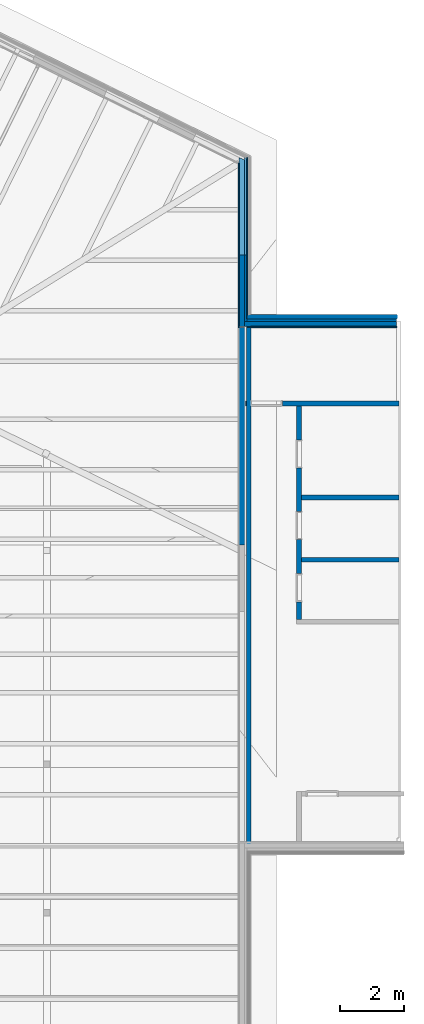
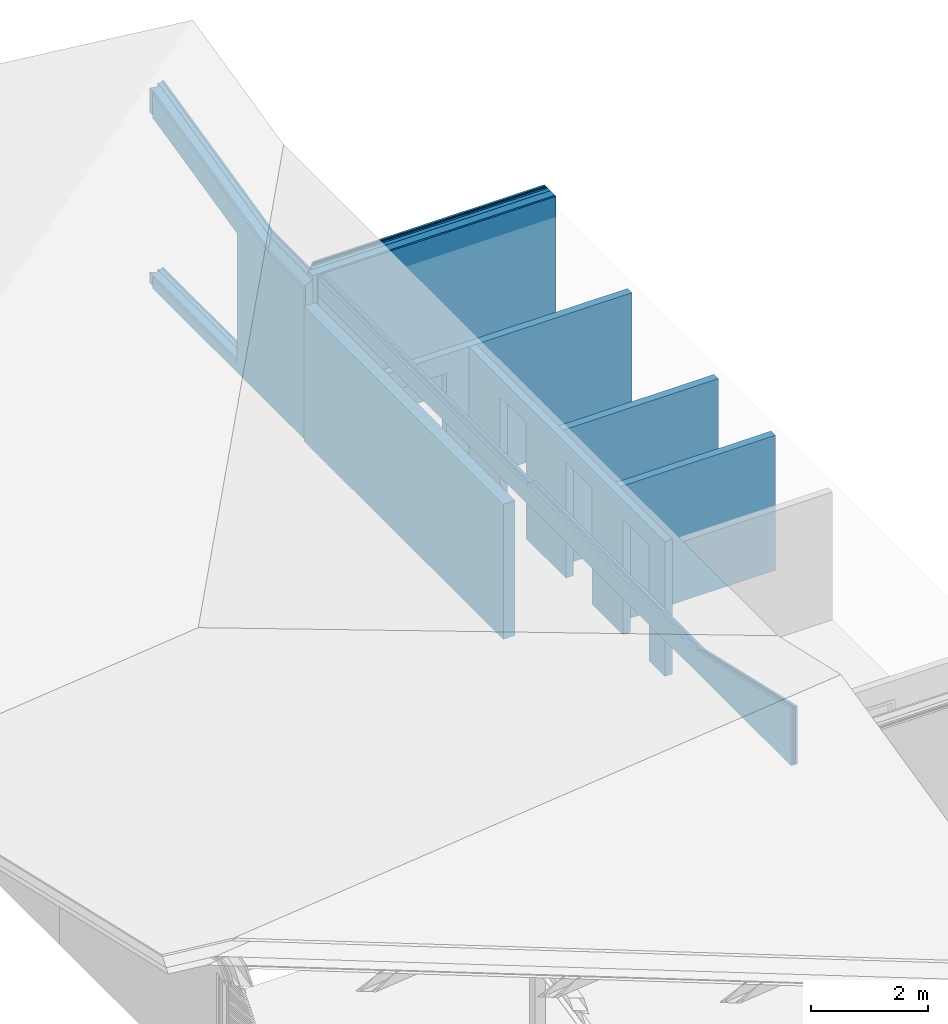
# One storey, part 6 of 14: 20 walls, 12 openings.
"""IFC4 building model written with IfcOpenShell, lengths in metres."""

from ifc_helpers import new_model, entity, si_unit, converted_unit, derived_unit, frame, frame_2d, origin, origin_with_axes, place, context, subcontext, project, spatial, polyline, rectangle, outline, extrude, clip, bounded_halfspace, faceted_brep, material, element, save


model = new_model("IFC4")

# Units and contexts
model_context = context("Model", 3, precision=1e-05, world=origin())
body_context = subcontext(model_context, "Body", "Model", "MODEL_VIEW")
ifc_project = project(units=[si_unit("LENGTHUNIT", "METRE"), si_unit("AREAUNIT", "SQUARE_METRE"), si_unit("VOLUMEUNIT", "CUBIC_METRE"), si_unit("MASSUNIT", "GRAM", prefix="KILO"), converted_unit("PLANEANGLEUNIT", "DEGREE", entity("IfcPlaneAngleMeasure", 0.0174532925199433), si_unit("PLANEANGLEUNIT", "RADIAN"), dimensions=[0, 0, 0, 0, 0, 0, 0]), derived_unit("THERMALTRANSMITTANCEUNIT", [(si_unit("POWERUNIT", "WATT"), 1), (si_unit("THERMODYNAMICTEMPERATUREUNIT", "KELVIN"), -1), (si_unit("LENGTHUNIT", "METRE"), -2)]), derived_unit("VOLUMETRICFLOWRATEUNIT", [(si_unit("LENGTHUNIT", "METRE"), 3), (converted_unit("TIMEUNIT", "hour", entity("IfcTimeMeasure", 3600.0), si_unit("TIMEUNIT", "SECOND"), dimensions=[0, 0, 1, 0, 0, 0, 0]), -1), (si_unit("LENGTHUNIT", "METRE"), -1)])], contexts=[model_context])

# Site, building, storey
site_placement = place(None, origin())
site = spatial("IfcSite", under=ifc_project, at=site_placement, Name="Psychiatrie Neubau Wunstorf", CompositionType="ELEMENT")
building_placement = place(site_placement, origin())
building = spatial("IfcBuilding", under=site, at=building_placement, Name="Neubau H1 Sozialzentrum", CompositionType="ELEMENT")
storey_placement = place(building_placement, frame((0.0, 0.0, 4.45)))
storey = spatial("IfcBuildingStorey", under=building, at=storey_placement, Name="H1 Ebene +1", CompositionType="ELEMENT", Elevation=4.45)

# Walls
ifc_material_1 = material(Name="WA-LB")
wall_1_placement = place(storey_placement, frame((-4.89052529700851, 28.0942445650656, -0.15)))
element("IfcWall", 1, at=wall_1_placement, inside=storey, material=ifc_material_1, context=body_context, shape_type="SweptSolid", body=[
    extrude(rectangle(XDim=4.68952529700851, YDim=0.0359999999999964, at=frame_2d((2.34476264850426, 0.0179999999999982), x_axis=(1.0, 0.0))), origin_with_axes(), (0.0, 0.0, 1.0), 3.36),
])
ifc_material_2 = material(Name="WA-HD")
wall_2_placement = place(storey_placement, frame((-4.97052529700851, 28.1302445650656, -0.15)))
element("IfcWall", 2, at=wall_2_placement, inside=storey, material=ifc_material_2, context=body_context, shape_type="SweptSolid", body=[
    extrude(rectangle(XDim=4.76952529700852, YDim=0.16, at=frame_2d((2.38476264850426, 0.08), x_axis=(1.0, 0.0))), origin_with_axes(), (0.0, 0.0, 1.0), 3.36),
])
ifc_material_3 = material(Name="WA-DL")
wall_3_placement = place(storey_placement, frame((-4.89052529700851, 28.2902445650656, -0.15)))
element("IfcWall", 3, at=wall_3_placement, inside=storey, material=ifc_material_3, context=body_context, shape_type="SweptSolid", body=[
    extrude(rectangle(XDim=4.68952529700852, YDim=0.08, at=frame_2d((2.34476264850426, 0.04), x_axis=(1.0, 0.0))), origin_with_axes(), (0.0, 0.0, 1.0), 3.36),
])
ifc_material_4 = material(Name="WA-LB")
wall_4_placement = place(storey_placement, frame((-4.85452529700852, 28.3702445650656, -0.15)))
element("IfcWall", 4, at=wall_4_placement, inside=storey, material=ifc_material_4, context=body_context, shape_type="SweptSolid", body=[
    extrude(rectangle(XDim=4.65352529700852, YDim=0.0359999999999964, at=frame_2d((2.32676264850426, 0.0179999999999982), x_axis=(1.0, 0.0))), origin_with_axes(), (0.0, 0.0, 1.0), 3.36),
])
ifc_material_5 = material(Name="WA-KL")
wall_5_placement = place(storey_placement, frame((-4.83052529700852, 28.4062445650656, -0.15)))
element("IfcWall", 5, at=wall_5_placement, inside=storey, material=ifc_material_5, context=body_context, shape_type="SweptSolid", body=[
    extrude(rectangle(XDim=4.62952529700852, YDim=0.024, at=frame_2d((2.31476264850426, 0.012), x_axis=(1.0, 0.0))), origin_with_axes(), (0.0, 0.0, 1.0), 3.36),
])
ifc_material_6 = material(Name="WA-TL")
wall_6_placement = place(storey_placement, frame((-4.80652529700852, 28.4302445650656, -0.15)))
element("IfcWall", 6, at=wall_6_placement, inside=storey, material=ifc_material_6, context=body_context, shape_type="SweptSolid", body=[
    extrude(rectangle(XDim=4.60552529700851, YDim=0.0240000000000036, at=frame_2d((2.30276264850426, 0.0120000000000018), x_axis=(1.0, 0.0))), origin_with_axes(), (0.0, 0.0, 1.0), 3.36),
])
ifc_material_7 = material(Name="WA-HS")
wall_7_placement = place(storey_placement, frame((-4.76452529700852, 28.4542445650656, -0.15)))
element("IfcWall", 7, at=wall_7_placement, inside=storey, material=ifc_material_7, context=body_context, shape_type="SweptSolid", body=[
    extrude(rectangle(XDim=4.56352529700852, YDim=0.0419999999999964, at=frame_2d((2.28176264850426, 0.0209999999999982), x_axis=(1.0, 0.0))), origin_with_axes(), (0.0, 0.0, 1.0), 3.36),
])

# Wall, openings
ifc_material_8 = material(Name="WA-LB")
wall_8_placement = place(storey_placement, frame((-5.16652529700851, 33.2585880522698, -0.1), z_axis=(0.0, 0.0, 1.0), x_axis=(0.0, -1.0, 0.0)))
wall_8 = element("IfcWall", 8, at=wall_8_placement, inside=storey, material=ifc_material_8, context=body_context, shape_type="Clipping", body=[
    clip(clip(clip(extrude(outline(polyline([(-5.16434348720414, 0.0), (0.0, 0.0), (0.0, 0.0359999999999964), (-5.14659354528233, 0.0359999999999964), (-5.16434348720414, 0.0)])), frame((5.16434348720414, 0.0, 0.0), z_axis=(0.0, 0.0, 1.0), x_axis=(1.0, 0.0, 0.0)), (0.0, 0.0, 1.0), 4.06168993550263), bounded_halfspace(frame((1.97325676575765, 0.0179999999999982, 3.60998102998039), z_axis=(-0.222900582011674, 0.105340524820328, -0.969132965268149), x_axis=(0.516530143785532, -0.830356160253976, -0.209058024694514)), True, origin_with_axes(), polyline([(0.0178116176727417, 0.0359999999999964), (0.040205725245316, 0.0), (3.9406717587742, 0.0), (3.89433796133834, 0.0359999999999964), (0.0178116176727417, 0.0359999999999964)]))), bounded_halfspace(frame((4.54092417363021, 0.0179999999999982, 3.14543483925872), z_axis=(-8.79012107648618e-15, 0.375157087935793, -0.926961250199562), x_axis=(-1.0, 0.0, 9.30974777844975e-15)), True, origin_with_axes(), polyline([(5.16434348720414, 0.0359999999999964), (3.89433796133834, 0.0359999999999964), (3.9406717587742, 0.0), (5.16434348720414, 0.0), (5.16434348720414, 0.0359999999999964)]))), bounded_halfspace(frame((0.0189418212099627, 0.0179999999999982, 4.05711518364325), z_axis=(0.00413072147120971, 0.246524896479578, -0.969127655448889), x_axis=(0.999991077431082, 0.0, 0.00422434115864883)), True, origin_with_axes(), polyline([(0.0, 0.0), (0.040205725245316, 0.0), (0.0178116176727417, 0.0359999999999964), (0.0177499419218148, 0.0359999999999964), (0.0, 0.0)]))),
])
opening_1_placement = place(wall_8_placement, frame((0.0, 0.0, 0.23)))
element("IfcOpeningElement", 9, at=opening_1_placement, cuts=wall_8, Name="Fensteröffnung", ObjectType="Opening", context=body_context, shape_type="Brep", body=[
    faceted_brep([(0.0, 0.0, 3.31424249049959), (0.0, 0.0, 0.0), (0.0177499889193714, 0.0359999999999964, 0.0), (0.0177499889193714, 0.0359999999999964, 3.32347423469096), (0.017811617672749, 0.0359999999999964, 3.32347449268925), (0.0402057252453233, 0.0, 3.31441080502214), (2.89013819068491, 0.0, 0.0), (2.89013819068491, 0.0, 2.65892633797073), (2.89013819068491, 0.0359999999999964, 0.0), (2.89013819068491, 0.0359999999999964, 2.66283938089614)], [[[0, 1, 2, 3]], [[0, 3, 4, 5]], [[6, 1, 0, 5, 7]], [[8, 9, 4, 3, 2]], [[8, 6, 7, 9]], [[9, 7, 5, 4]], [[6, 8, 2, 1]]], orient=[[False], [False], [False], [False], [False], [False], [False]]),
])
opening_2_placement = place(wall_8_placement, frame((0.0, 0.0, 0.23)))
element("IfcOpeningElement", 10, at=opening_2_placement, cuts=wall_8, Name="Fensteröffnung", ObjectType="Opening", context=body_context, shape_type="Brep", body=[
    faceted_brep([(0.0, 0.0, 3.31424249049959), (0.0, 0.0, 0.0), (0.0177499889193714, 0.0359999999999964, 0.0), (0.0177499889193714, 0.0359999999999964, 3.32347423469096), (0.017811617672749, 0.0359999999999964, 3.32347449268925), (0.0402057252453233, 0.0, 3.31441080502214), (2.89013819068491, 0.0, 0.0), (2.89013819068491, 0.0, 2.65892633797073), (2.89013819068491, 0.0359999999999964, 0.0), (2.89013819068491, 0.0359999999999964, 2.66283938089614)], [[[0, 1, 2, 3]], [[0, 3, 4, 5]], [[6, 1, 0, 5, 7]], [[8, 9, 4, 3, 2]], [[8, 6, 7, 9]], [[9, 7, 5, 4]], [[6, 8, 2, 1]]], orient=[[False], [False], [False], [False], [False], [False], [False]]),
])

ifc_material_9 = material(Name="WA-HD")
wall_9_placement = place(storey_placement, frame((-5.13052529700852, 33.4192293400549, -0.1), z_axis=(0.0, 0.0, 1.0), x_axis=(0.0, -1.0, 0.0)))
wall_9 = element("IfcWall", 11, at=wall_9_placement, inside=storey, material=ifc_material_9, context=body_context, shape_type="Clipping", body=[
    clip(clip(clip(extrude(outline(polyline([(-5.28898477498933, 0.0), (0.0, 0.0), (0.0, 0.16), (-5.21009614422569, 0.16), (-5.28898477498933, 0.0)])), frame((5.28898477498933, 0.0, 0.0), z_axis=(0.0, 0.0, 1.0), x_axis=(1.0, 0.0, 0.0)), (0.0, 0.0, 1.0), 4.1019729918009), bounded_halfspace(frame((2.04035173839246, 0.08, 3.64214885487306), z_axis=(-0.222900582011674, 0.105340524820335, -0.969132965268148), x_axis=(0.516530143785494, -0.830356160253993, -0.209058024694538)), True, origin_with_axes(), polyline([(0.0789235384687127, 0.16), (0.178452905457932, 0.0), (4.05497924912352, 0.0), (3.84905126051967, 0.16), (0.0789235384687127, 0.16)]))), bounded_halfspace(frame((4.62050001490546, 0.0799999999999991, 3.18509711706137), z_axis=(-8.76852092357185e-15, 0.375157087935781, -0.926961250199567), x_axis=(-1.0, -6.31622705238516e-16, 8.84271787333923e-15)), True, origin_with_axes(), polyline([(5.28898477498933, 0.16), (3.84905126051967, 0.159999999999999), (4.05497924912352, 0.0), (5.28898477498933, 0.0), (5.28898477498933, 0.16)]))), bounded_halfspace(frame((0.08406626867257, 0.08, 4.08164389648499), z_axis=(0.00407370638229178, 0.246521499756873, -0.969128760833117), x_axis=(0.99999120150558, 0.0, 0.00419486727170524)), True, origin_with_axes(), polyline([(0.0, 0.0), (0.178452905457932, 0.0), (0.0789235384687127, 0.16), (0.0788886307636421, 0.16), (0.0, 0.0)]))),
])
opening_3_placement = place(wall_9_placement, frame((0.0, 0.0, 0.23)))
element("IfcOpeningElement", 12, at=opening_3_placement, cuts=wall_9, Name="Fensteröffnung", ObjectType="Opening", context=body_context, shape_type="Brep", body=[
    faceted_brep([(0.0, 0.0, 3.32272742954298), (0.0, 0.0, 0.0), (0.0788886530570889, 0.16, 0.0), (0.0788886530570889, 0.16, 3.36375740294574), (0.0789235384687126, 0.16, 3.36375754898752), (0.178452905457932, 0.0, 3.32347449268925), (3.0507794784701, 0.0, 0.0), (3.0507794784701, 0.0, 2.66283938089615), (3.0507794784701, 0.16, 0.0), (3.0507794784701, 0.16, 2.68023068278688)], [[[0, 1, 2, 3]], [[0, 3, 4, 5]], [[6, 1, 0, 5, 7]], [[8, 9, 4, 3, 2]], [[8, 6, 7, 9]], [[9, 7, 5, 4]], [[6, 8, 2, 1]]], orient=[[False], [False], [False], [False], [False], [False], [False]]),
])
opening_4_placement = place(wall_9_placement, frame((0.0, 0.0, 0.23)))
element("IfcOpeningElement", 13, at=opening_4_placement, cuts=wall_9, Name="Fensteröffnung", ObjectType="Opening", context=body_context, shape_type="Brep", body=[
    faceted_brep([(0.0, 0.0, 3.32272742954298), (0.0, 0.0, 0.0), (0.0788886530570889, 0.16, 0.0), (0.0788886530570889, 0.16, 3.36375740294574), (0.0789235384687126, 0.16, 3.36375754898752), (0.178452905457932, 0.0, 3.32347449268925), (3.0507794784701, 0.0, 0.0), (3.0507794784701, 0.0, 2.66283938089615), (3.0507794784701, 0.16, 0.0), (3.0507794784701, 0.16, 2.68023068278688)], [[[0, 1, 2, 3]], [[0, 3, 4, 5]], [[6, 1, 0, 5, 7]], [[8, 9, 4, 3, 2]], [[8, 6, 7, 9]], [[9, 7, 5, 4]], [[6, 8, 2, 1]]], orient=[[False], [False], [False], [False], [False], [False], [False]]),
])

ifc_material_10 = material(Name="WA-DL")
wall_10_placement = place(storey_placement, frame((-4.97052529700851, 33.4295363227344, -0.1), z_axis=(0.0, 0.0, 1.0), x_axis=(0.0, -1.0, 0.0)))
wall_10 = element("IfcWall", 14, at=wall_10_placement, inside=storey, material=ifc_material_10, context=body_context, shape_type="Clipping", body=[
    clip(clip(clip(extrude(outline(polyline([(-5.13929175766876, 0.0), (0.0, 0.0), (0.0, 0.08), (-5.09984744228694, 0.08), (-5.13929175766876, 0.0)])), frame((5.13929175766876, 0.0, 0.0), z_axis=(0.0, 0.0, 1.0), x_axis=(1.0, 0.0, 0.0)), (0.0, 0.0, 1.0), 4.12211451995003), bounded_halfspace(frame((1.93611221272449, 0.04, 3.68153802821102), z_axis=(-0.222900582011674, 0.105340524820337, -0.969132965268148), x_axis=(0.516530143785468, -0.830356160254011, -0.209058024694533)), True, origin_with_axes(), polyline([(0.0394658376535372, 0.08), (0.0892305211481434, 0.0), (3.8593582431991, 0.0), (3.75639424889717, 0.08), (0.0394658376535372, 0.08)]))), bounded_halfspace(frame((4.47358400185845, 0.0400000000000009, 3.2336631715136), z_axis=(-8.60819120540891e-15, 0.375157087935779, -0.926961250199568), x_axis=(-1.0, 6.57673251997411e-16, 9.86509877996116e-15)), True, origin_with_axes(), polyline([(5.13929175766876, 0.08), (3.75639424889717, 0.0800000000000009), (3.8593582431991, 0.0), (5.13929175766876, 0.0), (5.13929175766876, 0.08)]))), bounded_halfspace(frame((0.0420351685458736, 0.04, 4.11194958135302), z_axis=(0.00409031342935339, 0.246522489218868, -0.969128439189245), x_axis=(0.999991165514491, 0.0, 0.0042034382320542)), True, origin_with_axes(), polyline([(0.0, 0.0), (0.0892305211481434, 0.0), (0.0394658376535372, 0.08), (0.0394443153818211, 0.08), (0.0, 0.0)]))),
])
opening_5_placement = place(wall_10_placement, frame((0.0, 0.0, 0.23)))
element("IfcOpeningElement", 15, at=opening_5_placement, cuts=wall_10, Name="Fensteröffnung", ObjectType="Opening", context=body_context, shape_type="Brep", body=[
    faceted_brep([(0.0, 0.0, 3.3633840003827), (0.0, 0.0, 0.0), (0.0394443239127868, 0.08, 0.0), (0.0394443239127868, 0.08, 3.38389898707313), (0.0394658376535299, 0.08, 3.38389907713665), (0.0892305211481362, 0.0, 3.36375754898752), (3.06108646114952, 0.0, 0.0), (3.06108646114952, 0.0, 2.68023068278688), (3.06108646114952, 0.08, 0.0), (3.06108646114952, 0.08, 2.68892633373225)], [[[0, 1, 2, 3]], [[0, 3, 4, 5]], [[6, 1, 0, 5, 7]], [[8, 9, 4, 3, 2]], [[8, 6, 7, 9]], [[9, 7, 5, 4]], [[6, 8, 2, 1]]], orient=[[False], [False], [False], [False], [False], [False], [False]]),
])
opening_6_placement = place(wall_10_placement, frame((0.0, 0.0, 0.23)))
element("IfcOpeningElement", 16, at=opening_6_placement, cuts=wall_10, Name="Fensteröffnung", ObjectType="Opening", context=body_context, shape_type="Brep", body=[
    faceted_brep([(0.0, 0.0, 3.3633840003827), (0.0, 0.0, 0.0), (0.0394443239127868, 0.08, 0.0), (0.0394443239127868, 0.08, 3.38389898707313), (0.0394658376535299, 0.08, 3.38389907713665), (0.0892305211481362, 0.0, 3.36375754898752), (3.06108646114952, 0.0, 0.0), (3.06108646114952, 0.0, 2.68023068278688), (3.06108646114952, 0.08, 0.0), (3.06108646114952, 0.08, 2.68892633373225)], [[[0, 1, 2, 3]], [[0, 3, 4, 5]], [[6, 1, 0, 5, 7]], [[8, 9, 4, 3, 2]], [[8, 6, 7, 9]], [[9, 7, 5, 4]], [[6, 8, 2, 1]]], orient=[[False], [False], [False], [False], [False], [False], [False]]),
])

ifc_material_11 = material(Name="WA-LB")
wall_11_placement = place(storey_placement, frame((-4.89052529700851, 33.4302300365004, -0.100000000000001), z_axis=(0.0, 0.0, 1.0), x_axis=(0.0, -1.0, 0.0)))
wall_11 = element("IfcWall", 17, at=wall_11_placement, inside=storey, material=ifc_material_11, context=body_context, shape_type="Clipping", body=[
    clip(clip(clip(extrude(outline(polyline([(-5.05998547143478, 0.0), (0.0, 0.0), (0.0, 0.0359999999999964), (-5.04223552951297, 0.0359999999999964), (-5.05998547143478, 0.0)])), frame((5.05998547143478, 0.0, 0.0), z_axis=(0.0, 0.0, 1.0), x_axis=(1.0, 0.0, 0.0)), (0.0, 0.0, 1.0), 4.13117820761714), bounded_halfspace(frame((1.88144178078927, 0.0179999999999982, 3.70057612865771), z_axis=(-0.222900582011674, 0.10534052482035, -0.969132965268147), x_axis=(0.516530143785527, -0.830356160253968, -0.209058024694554)), True, origin_with_axes(), polyline([(0.0177654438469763, 0.0359999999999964), (0.0401595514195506, 0.0), (3.7570879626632, 0.0), (3.71075416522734, 0.0359999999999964), (0.0177654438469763, 0.0359999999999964)]))), bounded_halfspace(frame((4.39695326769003, 0.0179999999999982, 3.25713676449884), z_axis=(-8.90072063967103e-15, 0.375157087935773, -0.92696125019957), x_axis=(-1.0, 0.0, 8.76308685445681e-15)), True, origin_with_axes(), polyline([(5.05998547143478, 0.0359999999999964), (3.71075416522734, 0.0359999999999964), (3.7570879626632, 0.0), (5.05998547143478, 0.0), (5.05998547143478, 0.0359999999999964)]))), bounded_halfspace(frame((0.0189187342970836, 0.0179999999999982, 4.12660355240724), z_axis=(0.00413089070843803, 0.24652490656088, -0.96912765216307), x_axis=(0.999991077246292, 0.0, 0.00422438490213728)), True, origin_with_axes(), polyline([(0.0, 0.0), (0.0401595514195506, 0.0), (0.0177654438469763, 0.0359999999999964), (0.0177499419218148, 0.0359999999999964), (0.0, 0.0)]))),
])
opening_7_placement = place(wall_11_placement, frame((0.0, 0.0, 0.23)))
element("IfcOpeningElement", 18, at=opening_7_placement, cuts=wall_11, Name="Fensteröffnung", ObjectType="Opening", context=body_context, shape_type="Brep", body=[
    faceted_brep([(0.0, 0.0, 3.38373095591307), (0.0, 0.0, 0.0), (0.0177499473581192, 0.0359999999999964, 0.0), (0.0177499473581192, 0.0359999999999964, 3.39296269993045), (0.0177654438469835, 0.0359999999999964, 3.39296276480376), (0.0401595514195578, 0.0, 3.38389907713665), (3.06178017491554, 0.0, 0.0), (3.06178017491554, 0.0, 2.68892633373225), (3.06178017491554, 0.0359999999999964, 0.0), (3.06178017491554, 0.0359999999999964, 2.69283937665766)], [[[0, 1, 2, 3]], [[0, 3, 4, 5]], [[6, 1, 0, 5, 7]], [[8, 9, 4, 3, 2]], [[8, 6, 7, 9]], [[9, 7, 5, 4]], [[6, 8, 2, 1]]], orient=[[False], [False], [False], [False], [False], [False], [False]]),
])
opening_8_placement = place(wall_11_placement, frame((0.0, 0.0, 0.23)))
element("IfcOpeningElement", 19, at=opening_8_placement, cuts=wall_11, Name="Fensteröffnung", ObjectType="Opening", context=body_context, shape_type="Brep", body=[
    faceted_brep([(0.0, 0.0, 3.38373095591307), (0.0, 0.0, 0.0), (0.0177499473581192, 0.0359999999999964, 0.0), (0.0177499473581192, 0.0359999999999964, 3.39296269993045), (0.0177654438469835, 0.0359999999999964, 3.39296276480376), (0.0401595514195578, 0.0, 3.38389907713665), (3.06178017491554, 0.0, 0.0), (3.06178017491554, 0.0, 2.68892633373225), (3.06178017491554, 0.0359999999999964, 0.0), (3.06178017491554, 0.0359999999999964, 2.69283937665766)], [[[0, 1, 2, 3]], [[0, 3, 4, 5]], [[6, 1, 0, 5, 7]], [[8, 9, 4, 3, 2]], [[8, 6, 7, 9]], [[9, 7, 5, 4]], [[6, 8, 2, 1]]], orient=[[False], [False], [False], [False], [False], [False], [False]]),
])

ifc_material_12 = material(Name="WI-LB")
wall_12_placement = place(storey_placement, frame((-3.33450147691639, 25.6442446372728, -0.15), z_axis=(0.0, 0.0, 1.0), x_axis=(-6.79713093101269e-17, -1.0, 0.0)))
wall_12 = element("IfcWall", 20, at=wall_12_placement, inside=storey, material=ifc_material_12, context=body_context, shape_type="SweptSolid", body=[
    extrude(rectangle(XDim=6.690283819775, YDim=0.15, at=frame_2d((3.3451419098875, 0.075), x_axis=(1.0, 0.0))), origin_with_axes(), (0.0, 0.0, 1.0), 2.81),
])
opening_9_placement = place(wall_12_placement, frame((6.14028381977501, 0.15, 0.0), z_axis=(0.0, -1.0, 0.0), x_axis=(0.0, 0.0, 1.0)))
element("IfcOpeningElement", 21, at=opening_9_placement, cuts=wall_12, Name="Türöffnung", ObjectType="Opening", context=body_context, shape_type="SweptSolid", body=[
    extrude(outline(polyline([(2.41, 0.885), (2.41, 0.0), (0.0, 0.0), (0.0, 0.885), (2.41, 0.885)])), origin_with_axes(), (0.0, 0.0, 1.0), 0.15),
])
opening_10_placement = place(wall_12_placement, frame((4.19514190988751, 0.15, 0.0), z_axis=(0.0, -1.0, 0.0), x_axis=(0.0, 0.0, 1.0)))
element("IfcOpeningElement", 22, at=opening_10_placement, cuts=wall_12, Name="Türöffnung", ObjectType="Opening", context=body_context, shape_type="SweptSolid", body=[
    extrude(outline(polyline([(2.41, 0.885), (2.41, 0.0), (0.0, 0.0), (0.0, 0.885), (2.41, 0.885)])), origin_with_axes(), (0.0, 0.0, 1.0), 0.15),
])
opening_11_placement = place(wall_12_placement, frame((1.95000000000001, 0.15, 0.0), z_axis=(0.0, -1.0, 0.0), x_axis=(0.0, 0.0, 1.0)))
element("IfcOpeningElement", 23, at=opening_11_placement, cuts=wall_12, Name="Türöffnung", ObjectType="Opening", context=body_context, shape_type="SweptSolid", body=[
    extrude(outline(polyline([(2.41, 0.885), (2.41, 0.0), (0.0, 0.0), (0.0, 0.885), (2.41, 0.885)])), origin_with_axes(), (0.0, 0.0, 1.0), 0.15),
])

# Walls
ifc_material_13 = material(Name="WI-LB")
wall_13_placement = place(storey_placement, frame((-3.18450147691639, 20.7491027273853, -0.15)))
element("IfcWall", 24, at=wall_13_placement, inside=storey, material=ifc_material_13, context=body_context, shape_type="SweptSolid", body=[
    extrude(rectangle(XDim=3.06350147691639, YDim=0.15, at=frame_2d((1.53175073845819, 0.075), x_axis=(1.0, 0.0))), origin_with_axes(), (0.0, 0.0, 1.0), 2.81),
])
ifc_material_14 = material(Name="WI-LB")
wall_14_placement = place(storey_placement, frame((-3.18450147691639, 22.6942446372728, -0.15)))
element("IfcWall", 25, at=wall_14_placement, inside=storey, material=ifc_material_14, context=body_context, shape_type="SweptSolid", body=[
    extrude(rectangle(XDim=3.06350147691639, YDim=0.15, at=frame_2d((1.53175073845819, 0.075), x_axis=(1.0, 0.0))), origin_with_axes(), (0.0, 0.0, 1.0), 2.81),
])

# Wall, opening
ifc_material_15 = material(Name="WI-LB")
wall_15_placement = place(storey_placement, frame((-4.93452529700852, 25.6442446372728, -0.15)))
wall_15 = element("IfcWall", 26, at=wall_15_placement, inside=storey, material=ifc_material_15, context=body_context, shape_type="SweptSolid", body=[
    extrude(rectangle(XDim=4.81352529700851, YDim=0.15, at=frame_2d((2.40676264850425, 0.075), x_axis=(1.0, 0.0))), origin_with_axes(), (0.0, 0.0, 1.0), 2.81),
])
opening_12_placement = place(wall_15_placement, frame((1.16, 0.15, 0.0), z_axis=(0.0, -1.0, 0.0), x_axis=(0.0, 0.0, 1.0)))
element("IfcOpeningElement", 27, at=opening_12_placement, cuts=wall_15, Name="Türöffnung", ObjectType="Opening", context=body_context, shape_type="SweptSolid", body=[
    extrude(outline(polyline([(2.41, 1.01), (2.41, 0.0), (0.0, 0.0), (0.0, 1.01), (2.41, 1.01)])), origin_with_axes(), (0.0, 0.0, 1.0), 0.15),
])

# Walls
ifc_material_16 = material(Name="WI-HW 60")
wall_16_placement = place(storey_placement, frame((-4.93452529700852, 21.2882463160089, -0.15), z_axis=(0.0, 0.0, 1.0), x_axis=(1.33631345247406e-16, 1.0, 0.0)))
element("IfcWall", 28, at=wall_16_placement, inside=storey, material=ifc_material_16, context=body_context, shape_type="SweptSolid", body=[
    extrude(rectangle(XDim=6.80599824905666, YDim=0.232, at=frame_2d((3.40299912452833, 0.116), x_axis=(1.0, 0.0))), origin_with_axes(), (0.0, 0.0, 1.0), 2.81),
])
ifc_material_17 = material(Name="WA-LB")
wall_17_placement = place(storey_placement, frame((-4.89052529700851, 28.1302445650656, 2.78), z_axis=(0.0, 0.0, 1.0), x_axis=(-1.124638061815e-16, -1.0, 0.0)))
element("IfcWall", 29, at=wall_17_placement, inside=storey, material=ifc_material_17, context=body_context, shape_type="Clipping", body=[
    clip(clip(clip(extrude(rectangle(XDim=16.1739982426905, YDim=0.0359999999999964, at=frame_2d((8.08699912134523, 0.0179999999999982), x_axis=(1.0, 0.0))), origin_with_axes(), (0.0, 0.0, 1.0), 1.19828107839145), bounded_halfspace(frame((14.5655033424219, 0.0179999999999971, 0.826370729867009), z_axis=(0.222900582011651, 0.105340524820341, -0.969132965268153), x_axis=(-0.974555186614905, -1.09602185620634e-16, -0.224147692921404)), True, origin_with_axes(), polyline([(16.1739982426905, 0.0359999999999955), (12.9801753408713, 0.0359999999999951), (12.9338415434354, 0.0), (16.1739982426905, 0.0), (16.1739982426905, 0.0359999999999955)]))), bounded_halfspace(frame((3.59805373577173, 0.0179999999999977, 0.377136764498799), z_axis=(-8.72290200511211e-15, 0.37515708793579, -0.926961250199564), x_axis=(0.415683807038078, 0.843079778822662, 0.341208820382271)), True, origin_with_axes(), polyline([(7.18723250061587, 0.0), (7.20498244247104, 0.0359999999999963), (0.0, 0.0359999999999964), (0.0, 0.0), (7.18723250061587, 0.0)]))), bounded_halfspace(frame((10.0765579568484, 0.0179999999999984, 0.441864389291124), z_axis=(-8.61720389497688e-15, 0.375157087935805, -0.926961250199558), x_axis=(-0.415683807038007, -0.843079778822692, -0.341208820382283)), True, origin_with_axes(), polyline([(7.20498244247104, 0.0359999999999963), (7.18723250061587, 0.0), (12.9338415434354, 0.0), (12.9801753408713, 0.035999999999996), (7.20498244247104, 0.0359999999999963)]))),
])
ifc_material_18 = material(Name="WA-KL")
wall_18_placement = place(storey_placement, frame((-4.85452529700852, 28.1302445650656, 2.78), z_axis=(0.0, 0.0, 1.0), x_axis=(-1.124638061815e-16, -1.0, 0.0)))
element("IfcWall", 30, at=wall_18_placement, inside=storey, material=ifc_material_18, context=body_context, shape_type="Clipping", body=[
    clip(clip(clip(extrude(rectangle(XDim=16.1739982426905, YDim=0.024, at=frame_2d((8.08699912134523, 0.012), x_axis=(1.0, 0.0))), origin_with_axes(), (0.0, 0.0, 1.0), 1.20088977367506), bounded_halfspace(frame((14.5848090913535, 0.0119999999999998, 0.834071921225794), z_axis=(0.222900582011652, 0.105340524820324, -0.969132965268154), x_axis=(-0.974555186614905, -1.09602185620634e-16, -0.224147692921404)), True, origin_with_axes(), polyline([(16.1739982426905, 0.024), (13.0110645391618, 0.0239999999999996), (12.9801753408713, 0.0), (16.1739982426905, 0.0), (16.1739982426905, 0.024)]))), bounded_halfspace(frame((3.60544954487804, 0.0119999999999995, 0.389278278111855), z_axis=(-8.70507001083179e-15, 0.375157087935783, -0.926961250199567), x_axis=(0.415683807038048, 0.843079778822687, 0.341208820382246)), True, origin_with_axes(), polyline([(7.20498244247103, 0.0), (7.21681573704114, 0.0239999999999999), (0.0, 0.024), (0.0, 0.0), (7.20498244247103, 0.0)]))), bounded_halfspace(frame((10.1032595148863, 0.0120000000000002, 0.45400590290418), z_axis=(-8.64086310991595e-15, 0.375157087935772, -0.926961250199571), x_axis=(-0.415683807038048, -0.843079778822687, -0.341208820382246)), True, origin_with_axes(), polyline([(7.21681573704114, 0.0239999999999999), (7.20498244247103, 0.0), (12.9801753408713, 0.0), (13.0110645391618, 0.0240000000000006), (7.21681573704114, 0.0239999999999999)]))),
])
ifc_material_19 = material(Name="WA-TL")
wall_19_placement = place(storey_placement, frame((-4.83052529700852, 28.1302445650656, 2.78), z_axis=(0.0, 0.0, 1.0), x_axis=(-1.124638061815e-16, -1.0, 0.0)))
element("IfcWall", 31, at=wall_19_placement, inside=storey, material=ifc_material_19, context=body_context, shape_type="Clipping", body=[
    clip(clip(clip(extrude(rectangle(XDim=16.1739982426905, YDim=0.0240000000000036, at=frame_2d((8.08699912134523, 0.0120000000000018), x_axis=(1.0, 0.0))), origin_with_axes(), (0.0, 0.0, 1.0), 1.20349846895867), bounded_halfspace(frame((14.6002536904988, 0.0120000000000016, 0.840232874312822), z_axis=(0.222900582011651, 0.105340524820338, -0.969132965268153), x_axis=(-0.974555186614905, -1.09602185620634e-16, -0.224147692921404)), True, origin_with_axes(), polyline([(16.1739982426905, 0.0240000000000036), (13.0419537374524, 0.0240000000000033), (13.0110645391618, 0.0), (16.1739982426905, 0.0), (16.1739982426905, 0.0240000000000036)]))), bounded_halfspace(frame((3.6113661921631, 0.0120000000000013, 0.398991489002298), z_axis=(-8.8660012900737e-15, 0.375157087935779, -0.926961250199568), x_axis=(0.415683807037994, 0.843079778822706, 0.341208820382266)), True, origin_with_axes(), polyline([(7.21681573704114, 0.0), (7.22864903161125, 0.0240000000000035), (0.0, 0.0240000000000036), (0.0, 0.0), (7.21681573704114, 0.0)]))), bounded_halfspace(frame((10.1246207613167, 0.012000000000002, 0.463719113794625), z_axis=(-8.72853619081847e-15, 0.37515708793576, -0.926961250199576), x_axis=(-0.41568380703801, -0.843079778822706, -0.341208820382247)), True, origin_with_axes(), polyline([(7.22864903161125, 0.0240000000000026), (7.21681573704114, 0.0), (13.0110645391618, 0.0), (13.0419537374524, 0.0240000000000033), (7.22864903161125, 0.0240000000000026)]))),
])
ifc_material_20 = material(Name="WA-HS")
wall_20_placement = place(storey_placement, frame((-4.80652529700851, 28.1302445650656, 2.78), z_axis=(0.0, 0.0, 1.0), x_axis=(-1.124638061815e-16, -1.0, 0.0)))
element("IfcWall", 32, at=wall_20_placement, inside=storey, material=ifc_material_20, context=body_context, shape_type="Clipping", body=[
    clip(clip(clip(extrude(rectangle(XDim=16.1739982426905, YDim=0.0419999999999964, at=frame_2d((8.08699912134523, 0.0209999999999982), x_axis=(1.0, 0.0))), origin_with_axes(), (0.0, 0.0, 1.0), 1.20806368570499), bounded_halfspace(frame((14.6214900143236, 0.020999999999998, 0.848704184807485), z_axis=(0.222900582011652, 0.105340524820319, -0.969132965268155), x_axis=(-0.974555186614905, -1.09602185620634e-16, -0.224147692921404)), True, origin_with_axes(), polyline([(16.1739982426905, 0.0419999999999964), (13.0960098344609, 0.041999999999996), (13.0419537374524, 0.0), (16.1739982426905, 0.0), (16.1739982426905, 0.0419999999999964)]))), bounded_halfspace(frame((3.61950158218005, 0.0209999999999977, 0.412347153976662), z_axis=(-8.72967967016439e-15, 0.375157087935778, -0.926961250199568), x_axis=(0.415683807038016, 0.843079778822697, 0.341208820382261)), True, origin_with_axes(), polyline([(7.22864903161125, 0.0), (7.24935729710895, 0.0419999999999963), (0.0, 0.0419999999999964), (0.0, 0.0), (7.22864903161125, 0.0)]))), bounded_halfspace(frame((10.1539924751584, 0.0209999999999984, 0.477074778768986), z_axis=(-8.68945651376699e-15, 0.375157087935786, -0.926961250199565), x_axis=(-0.415683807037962, -0.843079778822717, -0.341208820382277)), True, origin_with_axes(), polyline([(7.24935729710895, 0.0419999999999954), (7.22864903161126, 0.0), (13.0419537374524, 0.0), (13.0960098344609, 0.041999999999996), (7.24935729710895, 0.0419999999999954)]))),
])

save(model, "model.ifc")
